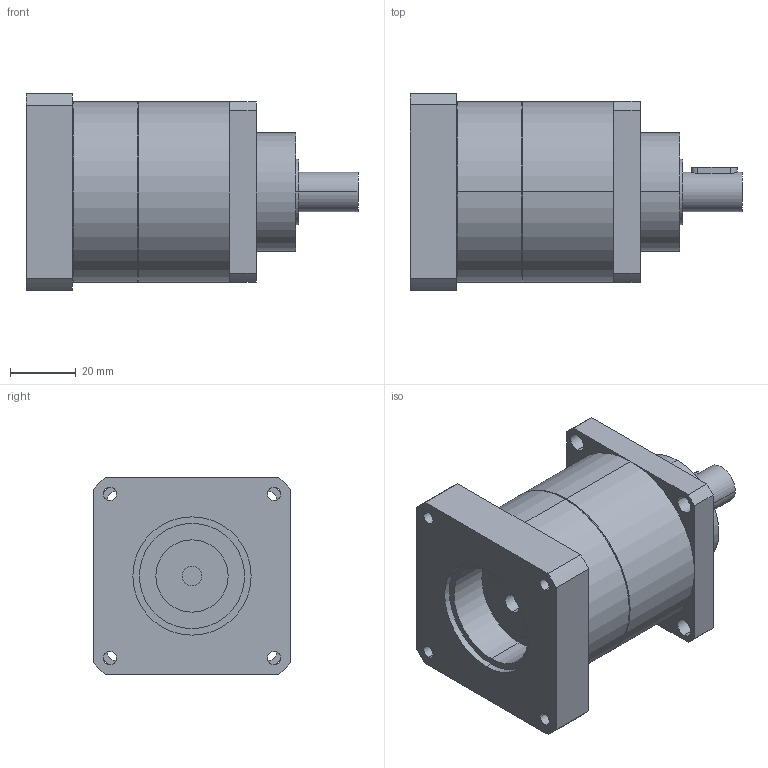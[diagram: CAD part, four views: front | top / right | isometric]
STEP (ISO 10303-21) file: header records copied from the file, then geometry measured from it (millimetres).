
FILE_DESCRIPTION(('CoCreate Modeling STEP Export'),'2;1');
FILE_NAME('GPT55_ig-3-4-5-7-10_12_B5A_6_P35.stp','2014-08-25T14:33:12',(''),(''),'CoCreate Modeling STEP processor for AP214 (Solid Model)','CoCreate Modeling 16.00C 25-Feb-2009 (C) Parametric Technology GmbH','');
FILE_SCHEMA(('AUTOMOTIVE_DESIGN { 1 0 10303 214 1 1 1 1 }'));
Length unit declared in the file: millimetre
Products named in the file (2): GPT55_ig-3-4-5-7-10_12_B5A_6_P35
Assembly tree (1 placements, depth 2):
  GPT55_ig-3-4-5-7-10_12_B5A_6_P35
    GPT55_ig-3-4-5-7-10_12_B5A_6_P35
Bounding box: 101 x 60 x 60 mm (x, y, z)
Volume: 190033.8 mm3; surface area: 27133.4 mm2
Topology: 1 solids, 1 shells, 77 faces, 204 edges, 139 vertices
Faces by surface type: cylinder 46, plane 27, cone 4
Entity records: 2515 total; most frequent: CARTESIAN_POINT 710, ORIENTED_EDGE 408, DIRECTION 318, EDGE_CURVE 204, VERTEX_POINT 139, AXIS2_PLACEMENT_3D 117, EDGE_LOOP 103, VECTOR 84
